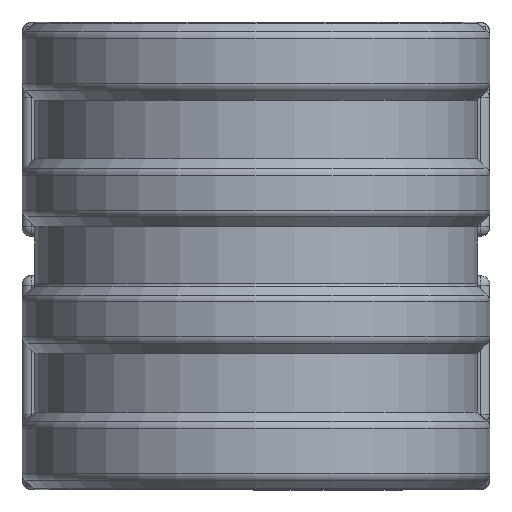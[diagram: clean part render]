
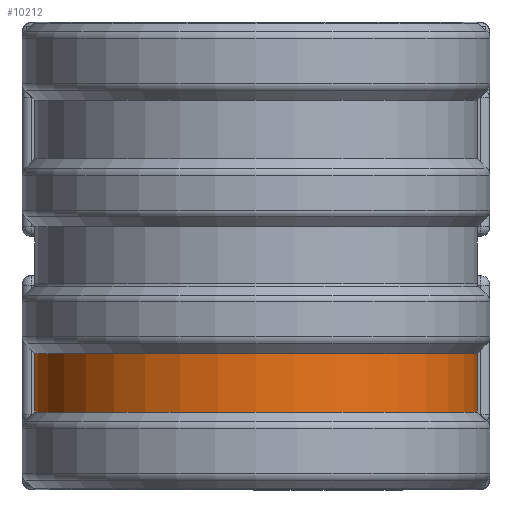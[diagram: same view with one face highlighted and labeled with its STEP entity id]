
A CAD part, left-side view. The second image highlights one B-rep face of the part: STEP entity #10212.
In plain terms, the highlighted cylindrical face has radius 11.35 mm (diameter 22.7 mm), a full revolution.
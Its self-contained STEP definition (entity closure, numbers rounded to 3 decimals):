
#453=CIRCLE('',#10942,11.35);
#454=CIRCLE('',#10943,11.35);
#460=CIRCLE('',#10952,11.35);
#461=CIRCLE('',#10953,11.35);
#1127=LINE('',#22562,#1673);
#1673=VECTOR('',#12441,11.);
#2159=CYLINDRICAL_SURFACE('',#10985,11.35);
#2514=FACE_OUTER_BOUND('',#3263,.T.);
#3263=EDGE_LOOP('',(#7390,#7391,#7392,#7393,#7394,#7395));
#4443=VERTEX_POINT('',#22488);
#4444=VERTEX_POINT('',#22489);
#4449=VERTEX_POINT('',#22506);
#4450=VERTEX_POINT('',#22507);
#5417=EDGE_CURVE('',#4443,#4444,#453,.F.);
#5419=EDGE_CURVE('',#4444,#4443,#454,.F.);
#5426=EDGE_CURVE('',#4449,#4450,#460,.T.);
#5428=EDGE_CURVE('',#4450,#4449,#461,.T.);
#5453=EDGE_CURVE('',#4450,#4444,#1127,.T.);
#7390=ORIENTED_EDGE('',*,*,#5426,.T.);
#7391=ORIENTED_EDGE('',*,*,#5453,.T.);
#7392=ORIENTED_EDGE('',*,*,#5419,.T.);
#7393=ORIENTED_EDGE('',*,*,#5417,.T.);
#7394=ORIENTED_EDGE('',*,*,#5453,.F.);
#7395=ORIENTED_EDGE('',*,*,#5428,.T.);
#10212=ADVANCED_FACE('',(#2514),#2159,.T.);
#10942=AXIS2_PLACEMENT_3D('',#22490,#12345,#12346);
#10943=AXIS2_PLACEMENT_3D('',#22492,#12348,#12349);
#10952=AXIS2_PLACEMENT_3D('',#22508,#12367,#12368);
#10953=AXIS2_PLACEMENT_3D('',#22510,#12370,#12371);
#10985=AXIS2_PLACEMENT_3D('',#22561,#12439,#12440);
#12345=DIRECTION('center_axis',(0.,0.,-1.));
#12346=DIRECTION('ref_axis',(1.,0.,0.));
#12348=DIRECTION('center_axis',(0.,0.,-1.));
#12349=DIRECTION('ref_axis',(1.,0.,0.));
#12367=DIRECTION('center_axis',(0.,0.,-1.));
#12368=DIRECTION('ref_axis',(1.,0.,0.));
#12370=DIRECTION('center_axis',(0.,0.,-1.));
#12371=DIRECTION('ref_axis',(1.,0.,0.));
#12439=DIRECTION('center_axis',(0.,0.,1.));
#12440=DIRECTION('ref_axis',(1.,0.,0.));
#12441=DIRECTION('',(0.,0.,-1.));
#22488=CARTESIAN_POINT('',(-28.65,0.,4.));
#22489=CARTESIAN_POINT('',(-51.35,0.,4.));
#22490=CARTESIAN_POINT('Origin',(-40.,0.,4.));
#22492=CARTESIAN_POINT('Origin',(-40.,0.,4.));
#22506=CARTESIAN_POINT('',(-28.65,0.,7.));
#22507=CARTESIAN_POINT('',(-51.35,0.,7.));
#22508=CARTESIAN_POINT('Origin',(-40.,0.,7.));
#22510=CARTESIAN_POINT('Origin',(-40.,0.,7.));
#22561=CARTESIAN_POINT('Origin',(-40.,0.,12.));
#22562=CARTESIAN_POINT('',(-51.35,0.,12.));
